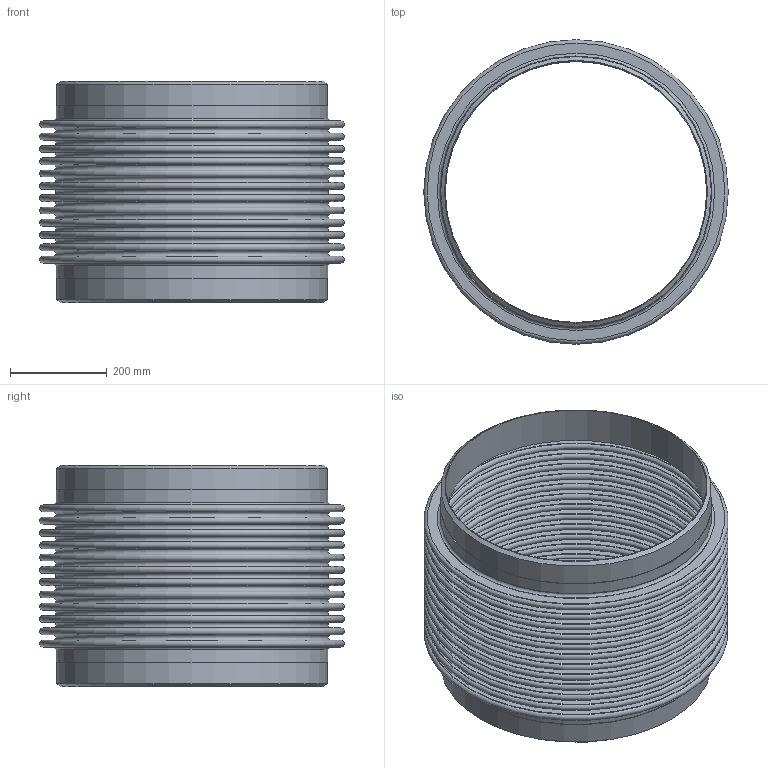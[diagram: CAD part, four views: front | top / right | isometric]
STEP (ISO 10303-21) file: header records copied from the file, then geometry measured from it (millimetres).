
FILE_DESCRIPTION(/* description */ ('EXPANSION JOINT,SINGLE, WELD ENDS,4 INCH NOMINAL'),/* implementation_level */ '2;1');
FILE_NAME(/* name */ 'ASSEMBLY US-22-12-85L.stp',/* time_stamp */ '2026-07-30T08:22:56-05:00',/* author */ ('jorgef'),/* organization */ (''),/* preprocessor_version */ 'ST-DEVELOPER v20.1',/* originating_system */ 'Autodesk Inventor 2026',/* authorisation */ '');
FILE_SCHEMA (('AUTOMOTIVE_DESIGN { 1 0 10303 214 3 1 1 }'));
Length unit declared in the file: inch
Products named in the file (3): ASSEMBLY  US-22-12-85L; STOCK BELLOW - US-22-12-85L; PIPE- US-22-12-85L
Assembly tree (3 placements, depth 2):
  ASSEMBLY  US-22-12-85L
    STOCK BELLOW - US-22-12-85L
    PIPE- US-22-12-85L  x2
Bounding box: 628.65 x 628.65 x 457.2 mm (x, y, z)
Volume: 4765052.3 mm3; surface area: 4435859 mm2
Topology: 5 solids, 5 shells, 118 faces, 180 edges, 121 vertices
Faces by surface type: plane 58, torus 50, cylinder 8, cone 2
Full cylindrical faces by diameter (mm): 539.75 x2, 558.8 x4, 561.238 x2
Entity records: 2769 total; most frequent: DIRECTION 573, CARTESIAN_POINT 405, ORIENTED_EDGE 342, AXIS2_PLACEMENT_3D 283, EDGE_CURVE 171, EDGE_LOOP 169, CIRCLE 164, VERTEX_POINT 114
